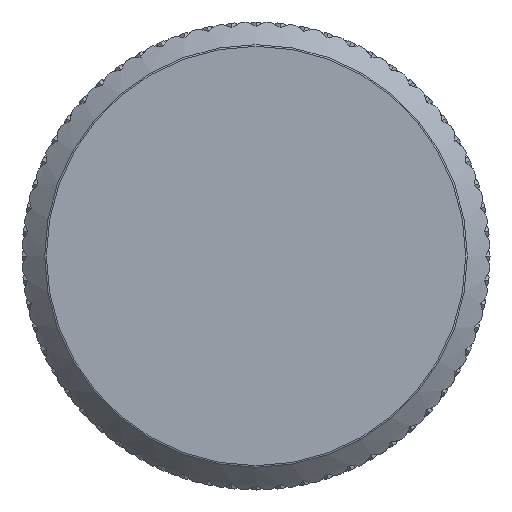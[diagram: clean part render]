
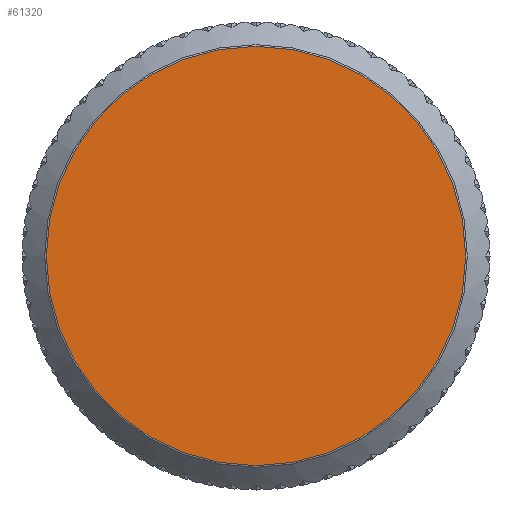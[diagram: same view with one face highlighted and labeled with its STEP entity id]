
A CAD part, left-side view. The second image highlights one B-rep face of the part: STEP entity #61320.
In plain terms, the highlighted planar face has unit normal (-1, 0, 0).
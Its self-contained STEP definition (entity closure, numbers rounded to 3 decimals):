
#21=PLANE('',#62460);
#8218=FACE_OUTER_BOUND('',#12814,.T.);
#12814=EDGE_LOOP('',(#55731));
#12951=CIRCLE('',#62459,17.917);
#27392=VERTEX_POINT('',#180958);
#36841=EDGE_CURVE('',#27392,#27392,#12951,.T.);
#55731=ORIENTED_EDGE('',*,*,#36841,.F.);
#61320=ADVANCED_FACE('',(#8218),#21,.T.);
#62459=AXIS2_PLACEMENT_3D('',#180960,#64975,#64976);
#62460=AXIS2_PLACEMENT_3D('',#180961,#64977,#64978);
#64975=DIRECTION('center_axis',(1.,0.,0.));
#64976=DIRECTION('ref_axis',(0.,0.,-1.));
#64977=DIRECTION('center_axis',(-1.,0.,0.));
#64978=DIRECTION('ref_axis',(0.,0.,1.));
#180958=CARTESIAN_POINT('',(-90.941,0.,35.917));
#180960=CARTESIAN_POINT('Origin',(-90.941,0.,
18.));
#180961=CARTESIAN_POINT('Origin',(-90.941,0.,
38.));
